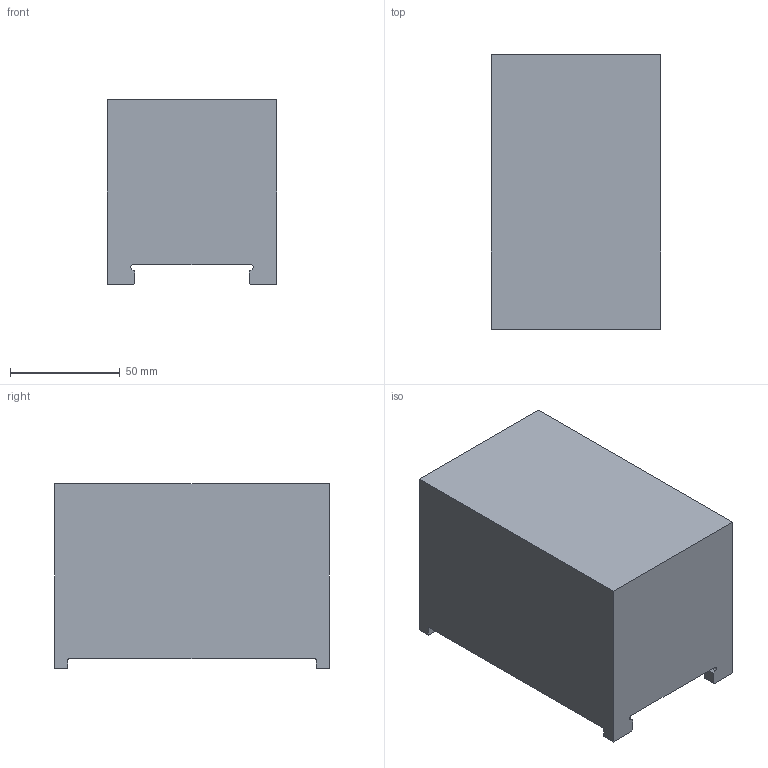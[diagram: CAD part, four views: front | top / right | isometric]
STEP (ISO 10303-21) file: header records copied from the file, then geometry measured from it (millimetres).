
FILE_DESCRIPTION (( 'STEP AP203' ), '1' );
FILE_NAME ('682420-84-Kundenmodell.STEP', '2020-10-05T13:50:17', ( '' ), ( '' ), 'SwSTEP 2.0', 'SolidWorks 2018', '' );
FILE_SCHEMA (( 'CONFIG_CONTROL_DESIGN' ));
Length unit declared in the file: millimetre
Products named in the file (2): 682420-84-Kundenmodell
Bounding box: 77 x 125 x 84 mm (x, y, z)
Volume: 736674.7 mm3; surface area: 53284.9 mm2
Topology: 1 solids, 1 shells, 40 faces, 114 edges, 76 vertices
Faces by surface type: plane 30, cylinder 10
Entity records: 1445 total; most frequent: CARTESIAN_POINT 256, ORIENTED_EDGE 228, DIRECTION 202, EDGE_CURVE 114, VECTOR 94, LINE 94, VERTEX_POINT 76, AXIS2_PLACEMENT_3D 54
